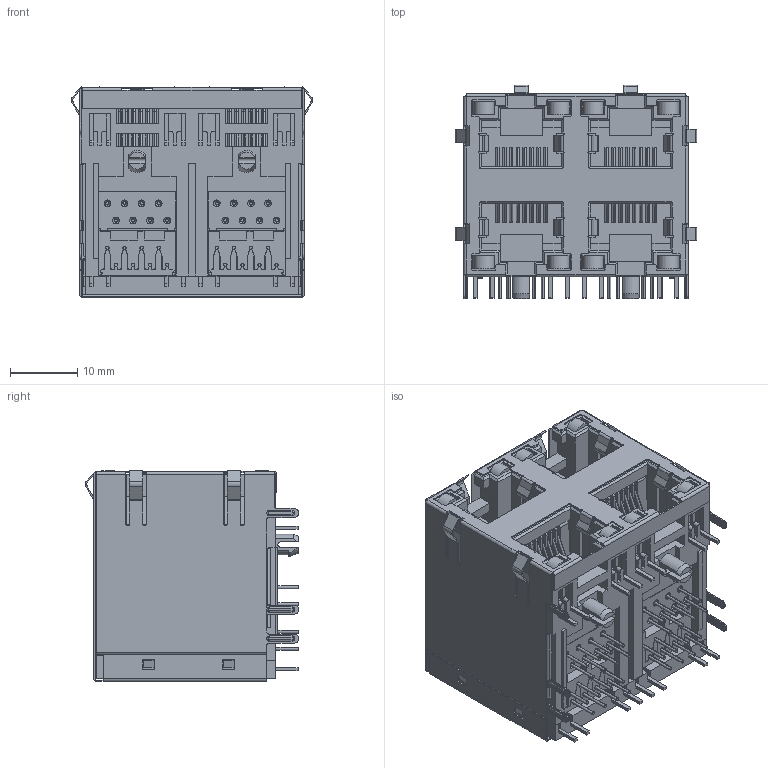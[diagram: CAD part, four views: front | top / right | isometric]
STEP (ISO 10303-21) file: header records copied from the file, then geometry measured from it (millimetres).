
FILE_DESCRIPTION((''),'2;1');
FILE_NAME('ASM0001_ASM','2024-09-06T14:46:40',('HQW'),(''),'CREO PARAMETRIC BY PTC INC, 2024153','CREO PARAMETRIC BY PTC INC, 2024153','');
FILE_SCHEMA(('CONFIG_CONTROL_DESIGN','GEOMETRIC_VALIDATION_PROPERTIES_MIM'));
Products named in the file (12): 5921-LED-2X2-SK; 5921-LED-2X2-HGB; 5921-LED-2XN-XCX1; 5921-LED-2XN-XCX-PIN; 5921-LED-2XN-XCX_ASM; 5921-LED-2XN-DCX2; 5921-LED-2XN-DCX1; 5921-LED-2XN-DCX-PIN; 5921-LED-2XN-DCX_ASM; 5921-LED-2X2-000; 5921-LED-2X2-00; ASM0001_ASM
Assembly tree (13 placements, depth 3):
  ASM0001_ASM
    5921-LED-2X2-SK
    5921-LED-2X2-HGB
    5921-LED-2XN-XCX_ASM  x2
      5921-LED-2XN-XCX1
      5921-LED-2XN-XCX-PIN
    5921-LED-2XN-DCX_ASM  x2
      5921-LED-2XN-DCX2
      5921-LED-2XN-DCX1
      5921-LED-2XN-DCX-PIN
    5921-LED-2X2-000
    5921-LED-2X2-00
Bounding box: 35.89 x 31.73 x 31.36 mm (x, y, z)
Volume: 16671.7 mm3; surface area: 35334.3 mm2
Topology: 46 solids, 46 shells, 3396 faces, 8970 edges, 5592 vertices
Faces by surface type: plane 2308, cylinder 804, torus 172, cone 100, bspline 12
Entity records: 77913 total; most frequent: CARTESIAN_POINT 14619, ORIENTED_EDGE 13272, DIRECTION 12770, EDGE_CURVE 6636, VECTOR 5324, LINE 5324, VERTEX_POINT 4124, AXIS2_PLACEMENT_3D 3723
